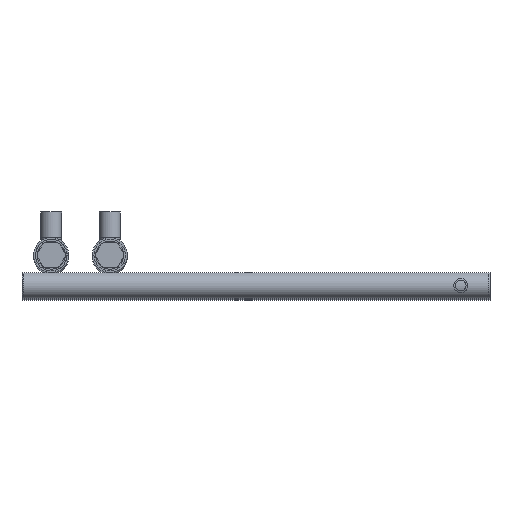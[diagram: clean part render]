
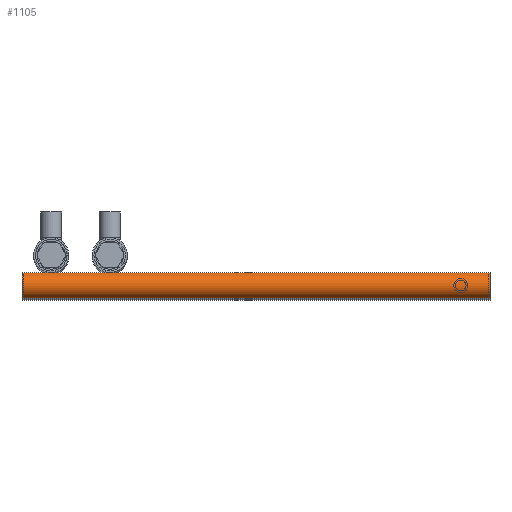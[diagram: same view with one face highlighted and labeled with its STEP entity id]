
A CAD part, top view. The second image highlights one B-rep face of the part: STEP entity #1105.
In plain terms, the highlighted cylindrical face has radius 11 mm (diameter 22 mm), a full revolution.
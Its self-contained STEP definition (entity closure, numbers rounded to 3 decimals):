
#280=CIRCLE('',#1224,11.);
#281=CIRCLE('',#1226,11.);
#366=FACE_BOUND('',#522,.T.);
#407=FACE_OUTER_BOUND('',#521,.T.);
#521=EDGE_LOOP('',(#949));
#522=EDGE_LOOP('',(#950));
#677=VERTEX_POINT('',#2994);
#678=VERTEX_POINT('',#2997);
#776=EDGE_CURVE('',#677,#677,#280,.T.);
#777=EDGE_CURVE('',#678,#678,#281,.T.);
#949=ORIENTED_EDGE('',*,*,#777,.F.);
#950=ORIENTED_EDGE('',*,*,#776,.T.);
#1070=CYLINDRICAL_SURFACE('',#1227,11.);
#1105=ADVANCED_FACE('',(#407,#366),#1070,.T.);
#1224=AXIS2_PLACEMENT_3D('',#2995,#1395,#1396);
#1226=AXIS2_PLACEMENT_3D('',#2998,#1399,#1400);
#1227=AXIS2_PLACEMENT_3D('',#2999,#1401,#1402);
#1395=DIRECTION('center_axis',(0.,0.,-1.));
#1396=DIRECTION('ref_axis',(-1.,0.,0.));
#1399=DIRECTION('center_axis',(0.,0.,-1.));
#1400=DIRECTION('ref_axis',(-1.,0.,0.));
#1401=DIRECTION('center_axis',(0.,0.,-1.));
#1402=DIRECTION('ref_axis',(-1.,0.,0.));
#2994=CARTESIAN_POINT('',(11.,-11.,0.));
#2995=CARTESIAN_POINT('Origin',(0.,-11.,0.));
#2997=CARTESIAN_POINT('',(11.,-11.,-400.));
#2998=CARTESIAN_POINT('Origin',(0.,-11.,-400.));
#2999=CARTESIAN_POINT('Origin',(0.,-11.,0.));
